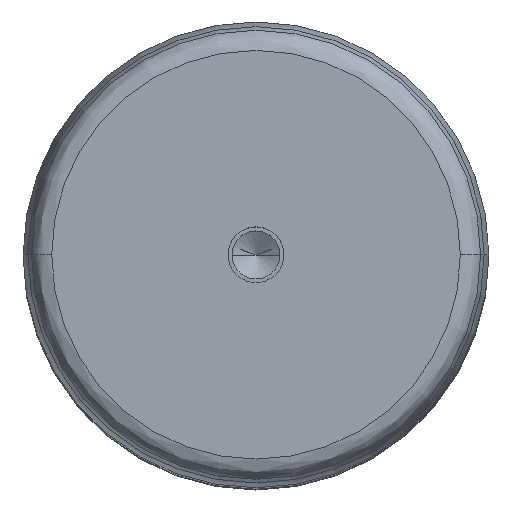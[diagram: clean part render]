
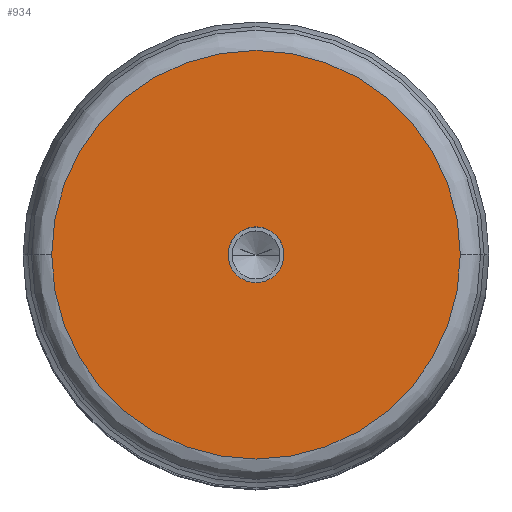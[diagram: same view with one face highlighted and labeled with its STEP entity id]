
A CAD part, top view. The second image highlights one B-rep face of the part: STEP entity #934.
In plain terms, the highlighted planar face has unit normal (0, 0, 1).
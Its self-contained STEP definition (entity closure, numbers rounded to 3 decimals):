
#149=VERTEX_POINT(' ',#150);
#150=CARTESIAN_POINT('',(43.868,0.,300.));
#151=VERTEX_POINT(' ',#152);
#152=CARTESIAN_POINT('',(-43.868,0.,300.));
#153=VERTEX_POINT(' ',#154);
#154=CARTESIAN_POINT('',(-6.,0.,300.));
#155=VERTEX_POINT(' ',#156);
#156=CARTESIAN_POINT('',(6.,0.,300.));
#469=CIRCLE('',#470,43.868);
#470=AXIS2_PLACEMENT_3D('',#471,#472,#473);
#471=CARTESIAN_POINT('',(0.,0.,300.));
#472=DIRECTION('',(0.,0.,1.));
#473=DIRECTION('',(0.,1.,0.));
#474=EDGE_CURVE(' ',#149,#151,#469,.F.);
#481=CIRCLE('',#482,43.868);
#482=AXIS2_PLACEMENT_3D('',#483,#484,#485);
#483=CARTESIAN_POINT('',(0.,0.,300.));
#484=DIRECTION('',(0.,0.,1.));
#485=DIRECTION('',(0.,-1.,0.));
#486=EDGE_CURVE(' ',#151,#149,#481,.F.);
#487=CIRCLE('',#488,6.);
#488=AXIS2_PLACEMENT_3D('',#489,#490,#491);
#489=CARTESIAN_POINT('',(0.,0.,300.));
#490=DIRECTION('',(0.,0.,-1.));
#491=DIRECTION('',(0.,-1.,0.));
#492=EDGE_CURVE(' ',#155,#153,#487,.F.);
#493=CIRCLE('',#494,6.);
#494=AXIS2_PLACEMENT_3D('',#495,#496,#497);
#495=CARTESIAN_POINT('',(0.,0.,300.));
#496=DIRECTION('',(0.,0.,-1.));
#497=DIRECTION('',(0.,1.,0.));
#498=EDGE_CURVE(' ',#153,#155,#493,.F.);
#921=ORIENTED_EDGE('',*,*,#474,.F.);
#922=ORIENTED_EDGE('',*,*,#486,.F.);
#923=EDGE_LOOP('',(#921,#922));
#924=FACE_OUTER_BOUND('',#923,.T.);
#925=ORIENTED_EDGE('',*,*,#492,.F.);
#926=ORIENTED_EDGE('',*,*,#498,.F.);
#927=EDGE_LOOP('',(#925,#926));
#928=FACE_BOUND('',#927,.T.);
#929=PLANE('',#930);
#930=AXIS2_PLACEMENT_3D('',#931,#932,#933);
#931=CARTESIAN_POINT('',(0.,0.,300.));
#932=DIRECTION('',(0.,0.,1.));
#933=DIRECTION('',(0.,-1.,0.));
#934=ADVANCED_FACE('',(#924,#928),#929,.T.);
